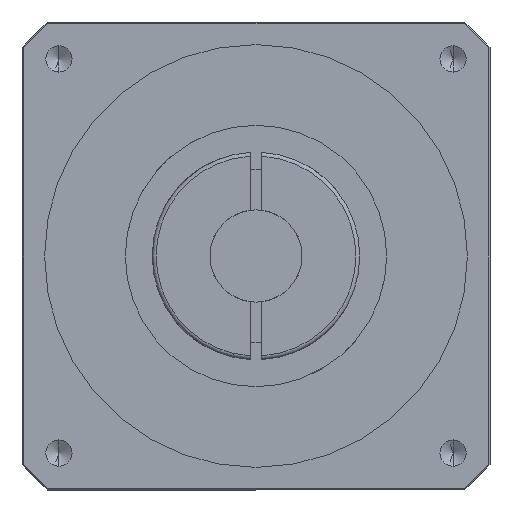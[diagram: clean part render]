
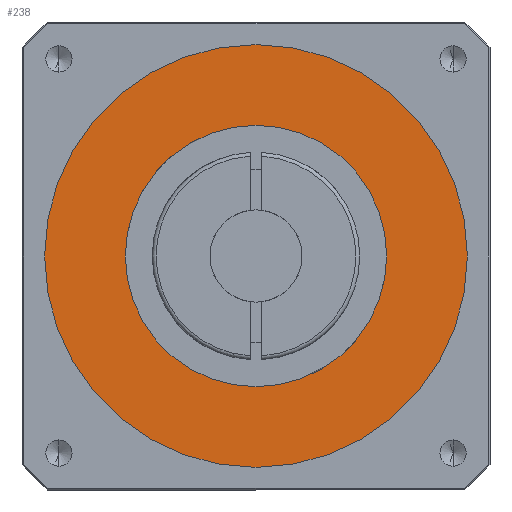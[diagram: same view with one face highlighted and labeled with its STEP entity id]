
A CAD part, front view. The second image highlights one B-rep face of the part: STEP entity #238.
In plain terms, the highlighted planar face has unit normal (0, -1, 0).
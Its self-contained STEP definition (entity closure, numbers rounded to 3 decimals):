
#44 = EDGE_CURVE ( 'NONE', #2582, #2584, #2241, .T. ) ;
#45 = EDGE_CURVE ( 'NONE', #2506, #2505, #2242, .T. ) ;
#112 = DIRECTION ( 'NONE',  ( 0., 0., -1. ) ) ;
#238 = ADVANCED_FACE ( 'NONE', ( #2335, #2340 ), #4951, .T. ) ;
#260 = EDGE_CURVE ( 'NONE', #2505, #2506, #2372, .T. ) ;
#752 = CARTESIAN_POINT ( 'NONE',  ( 0., -146.7, 55. ) ) ;
#753 = CARTESIAN_POINT ( 'NONE',  ( 0., -146.7, -55. ) ) ;
#829 = CARTESIAN_POINT ( 'NONE',  ( 0., -146.7, -34. ) ) ;
#831 = CARTESIAN_POINT ( 'NONE',  ( 0., -146.7, 34. ) ) ;
#941 = CIRCLE ( 'NONE', #2820, 34. ) ;
#1270 = ORIENTED_EDGE ( 'NONE', *, *, #260, .T. ) ;
#1271 = ORIENTED_EDGE ( 'NONE', *, *, #45, .T. ) ;
#1272 = ORIENTED_EDGE ( 'NONE', *, *, #1504, .F. ) ;
#1273 = ORIENTED_EDGE ( 'NONE', *, *, #44, .F. ) ;
#1504 = EDGE_CURVE ( 'NONE', #2584, #2582, #941, .T. ) ;
#1852 = CARTESIAN_POINT ( 'NONE',  ( 0., -146.7, 0. ) ) ;
#1853 = DIRECTION ( 'NONE',  ( 0., -1., 0. ) ) ;
#1854 = DIRECTION ( 'NONE',  ( 0., 0., -1. ) ) ;
#2113 = CARTESIAN_POINT ( 'NONE',  ( 0., -146.7, 0. ) ) ;
#2116 = DIRECTION ( 'NONE',  ( 0., -1., 0. ) ) ;
#2117 = DIRECTION ( 'NONE',  ( 0., 0., -1. ) ) ;
#2126 = DIRECTION ( 'NONE',  ( 0., 0., -1. ) ) ;
#2132 = CARTESIAN_POINT ( 'NONE',  ( 0., -146.7, 0. ) ) ;
#2134 = DIRECTION ( 'NONE',  ( 0., -1., 0. ) ) ;
#2206 = EDGE_LOOP ( 'NONE', ( #1271, #1270 ) ) ;
#2226 = EDGE_LOOP ( 'NONE', ( #1273, #1272 ) ) ;
#2241 = CIRCLE ( 'NONE', #2929, 34. ) ;
#2242 = CIRCLE ( 'NONE', #2930, 55. ) ;
#2335 = FACE_BOUND ( 'NONE', #2226, .T. ) ;
#2340 = FACE_OUTER_BOUND ( 'NONE', #2206, .T. ) ;
#2372 = CIRCLE ( 'NONE', #2856, 55. ) ;
#2505 = VERTEX_POINT ( 'NONE', #752 ) ;
#2506 = VERTEX_POINT ( 'NONE', #753 ) ;
#2582 = VERTEX_POINT ( 'NONE', #829 ) ;
#2584 = VERTEX_POINT ( 'NONE', #831 ) ;
#2820 = AXIS2_PLACEMENT_3D ( 'NONE', #1852, #1853, #1854 ) ;
#2841 = AXIS2_PLACEMENT_3D ( 'NONE', #4965, #4984, #4937 ) ;
#2856 = AXIS2_PLACEMENT_3D ( 'NONE', #4979, #4988, #112 ) ;
#2929 = AXIS2_PLACEMENT_3D ( 'NONE', #2113, #2116, #2117 ) ;
#2930 = AXIS2_PLACEMENT_3D ( 'NONE', #2132, #2134, #2126 ) ;
#4937 = DIRECTION ( 'NONE',  ( 0., 0., -1. ) ) ;
#4951 = PLANE ( 'NONE',  #2841 ) ;
#4965 = CARTESIAN_POINT ( 'NONE',  ( 0., -146.7, 0. ) ) ;
#4979 = CARTESIAN_POINT ( 'NONE',  ( 0., -146.7, 0. ) ) ;
#4984 = DIRECTION ( 'NONE',  ( 0., -1., 0. ) ) ;
#4988 = DIRECTION ( 'NONE',  ( 0., -1., 0. ) ) ;
